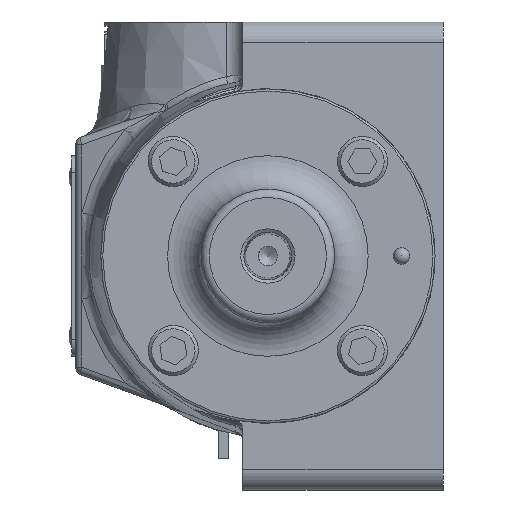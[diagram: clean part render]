
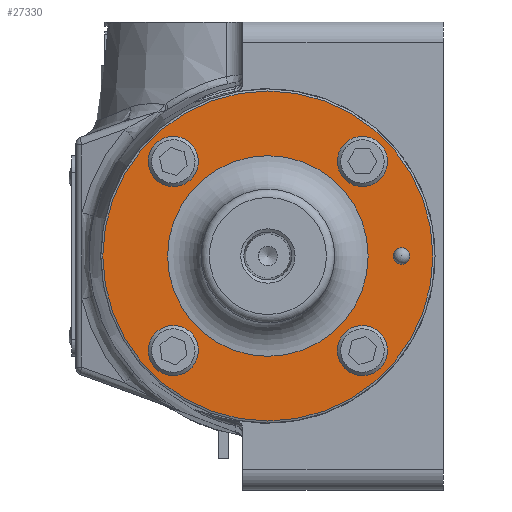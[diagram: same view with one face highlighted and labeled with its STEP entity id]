
A CAD part, left-side view. The second image highlights one B-rep face of the part: STEP entity #27330.
In plain terms, the highlighted planar face has unit normal (-1, 0, 0).
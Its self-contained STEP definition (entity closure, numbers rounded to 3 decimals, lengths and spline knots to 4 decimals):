
#1984=FACE_BOUND('',#10100,.T.);
#1985=FACE_BOUND('',#10101,.T.);
#1986=FACE_BOUND('',#10102,.T.);
#1987=FACE_BOUND('',#10103,.T.);
#1988=FACE_BOUND('',#10104,.T.);
#1989=FACE_BOUND('',#10105,.T.);
#3648=CIRCLE('',#29732,3.1353);
#3649=CIRCLE('',#29733,0.4763);
#3650=CIRCLE('',#29734,0.4763);
#3651=CIRCLE('',#29735,0.4763);
#3652=CIRCLE('',#29736,0.4763);
#3653=CIRCLE('',#29737,0.1588);
#3654=CIRCLE('',#29738,1.905);
#8031=FACE_OUTER_BOUND('',#10099,.T.);
#10099=EDGE_LOOP('',(#22919));
#10100=EDGE_LOOP('',(#22920));
#10101=EDGE_LOOP('',(#22921));
#10102=EDGE_LOOP('',(#22922));
#10103=EDGE_LOOP('',(#22923));
#10104=EDGE_LOOP('',(#22924));
#10105=EDGE_LOOP('',(#22925));
#12557=VERTEX_POINT('',#58486);
#12558=VERTEX_POINT('',#58488);
#12559=VERTEX_POINT('',#58490);
#12560=VERTEX_POINT('',#58492);
#12561=VERTEX_POINT('',#58494);
#12562=VERTEX_POINT('',#58496);
#12563=VERTEX_POINT('',#58498);
#16075=EDGE_CURVE('',#12557,#12557,#3648,.T.);
#16076=EDGE_CURVE('',#12558,#12558,#3649,.T.);
#16077=EDGE_CURVE('',#12559,#12559,#3650,.T.);
#16078=EDGE_CURVE('',#12560,#12560,#3651,.T.);
#16079=EDGE_CURVE('',#12561,#12561,#3652,.T.);
#16080=EDGE_CURVE('',#12562,#12562,#3653,.T.);
#16081=EDGE_CURVE('',#12563,#12563,#3654,.T.);
#22919=ORIENTED_EDGE('',*,*,#16075,.F.);
#22920=ORIENTED_EDGE('',*,*,#16076,.T.);
#22921=ORIENTED_EDGE('',*,*,#16077,.T.);
#22922=ORIENTED_EDGE('',*,*,#16078,.T.);
#22923=ORIENTED_EDGE('',*,*,#16079,.T.);
#22924=ORIENTED_EDGE('',*,*,#16080,.T.);
#22925=ORIENTED_EDGE('',*,*,#16081,.F.);
#24181=PLANE('',#29731);
#27330=ADVANCED_FACE('',(#8031,#1984,#1985,#1986,#1987,#1988,#1989),#24181,
 .F.);
#29731=AXIS2_PLACEMENT_3D('',#58485,#35605,#35606);
#29732=AXIS2_PLACEMENT_3D('',#58487,#35607,#35608);
#29733=AXIS2_PLACEMENT_3D('',#58489,#35609,#35610);
#29734=AXIS2_PLACEMENT_3D('',#58491,#35611,#35612);
#29735=AXIS2_PLACEMENT_3D('',#58493,#35613,#35614);
#29736=AXIS2_PLACEMENT_3D('',#58495,#35615,#35616);
#29737=AXIS2_PLACEMENT_3D('',#58497,#35617,#35618);
#29738=AXIS2_PLACEMENT_3D('',#58499,#35619,#35620);
#35605=DIRECTION('center_axis',(1.,0.,0.));
#35606=DIRECTION('ref_axis',(0.,0.,-1.));
#35607=DIRECTION('center_axis',(1.,0.,0.));
#35608=DIRECTION('ref_axis',(0.,0.,
-1.));
#35609=DIRECTION('center_axis',(1.,0.,0.));
#35610=DIRECTION('ref_axis',(0.,0.308,-0.951));
#35611=DIRECTION('center_axis',(1.,0.,0.));
#35612=DIRECTION('ref_axis',(0.,0.37,-0.929));
#35613=DIRECTION('center_axis',(1.,0.,0.));
#35614=DIRECTION('ref_axis',(0.,0.696,-0.718));
#35615=DIRECTION('center_axis',(1.,0.,0.));
#35616=DIRECTION('ref_axis',(0.,0.,
-1.));
#35617=DIRECTION('center_axis',(1.,0.,0.));
#35618=DIRECTION('ref_axis',(0.,0.,
-1.));
#35619=DIRECTION('center_axis',(-1.,0.,0.));
#35620=DIRECTION('ref_axis',(0.,0.,
-1.));
#58485=CARTESIAN_POINT('Origin',(-6.1074,0.,0.));
#58486=CARTESIAN_POINT('',(-6.1074,0.,3.1353));
#58487=CARTESIAN_POINT('Origin',(-6.1074,0.,0.));
#58488=CARTESIAN_POINT('',(-6.1074,1.6491,2.2491));
#58489=CARTESIAN_POINT('Origin',(-6.1074,1.7961,1.7961));
#58490=CARTESIAN_POINT('',(-6.1074,1.6197,-1.3536));
#58491=CARTESIAN_POINT('Origin',(-6.1074,1.7961,-1.7961));
#58492=CARTESIAN_POINT('',(-6.1074,-2.1276,-1.4542));
#58493=CARTESIAN_POINT('Origin',(-6.1074,-1.7961,-1.7961));
#58494=CARTESIAN_POINT('',(-6.1074,-1.7961,2.2723));
#58495=CARTESIAN_POINT('Origin',(-6.1074,-1.7961,1.7961));
#58496=CARTESIAN_POINT('',(-6.1074,-2.54,0.1588));
#58497=CARTESIAN_POINT('Origin',(-6.1074,-2.54,0.));
#58498=CARTESIAN_POINT('',(-6.1074,0.,1.905));
#58499=CARTESIAN_POINT('Origin',(-6.1074,0.,0.));
